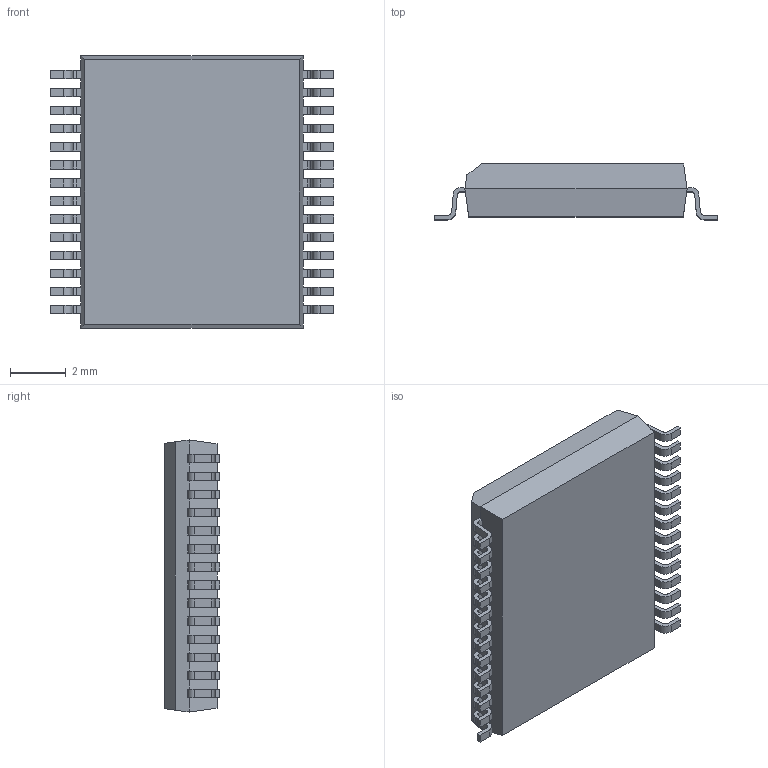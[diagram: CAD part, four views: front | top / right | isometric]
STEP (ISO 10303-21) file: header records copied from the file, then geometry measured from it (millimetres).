
FILE_DESCRIPTION (( 'STEP AP214' ), '1' );
FILE_NAME ('SOP65P1000X200-28_MO-152.GA.STEP', '2014-10-30T11:22:05', ( 'Tester2' ), ( '' ), 'SwSTEP 2.0', 'SolidWorks 2012', '' );
FILE_SCHEMA (( 'AUTOMOTIVE_DESIGN' ));
Length unit declared in the file: millimetre
Products named in the file (1): SOP65P1000X200-28_MO-152.GA
Bounding box: 10.2 x 2 x 9.8 mm (x, y, z)
Volume: 145.9 mm3; surface area: 260.1 mm2
Topology: 1 solids, 1 shells, 378 faces, 1121 edges, 746 vertices
Faces by surface type: plane 264, cylinder 114
Entity records: 16672 total; most frequent: CARTESIAN_POINT 2246, ORIENTED_EDGE 2242, DIRECTION 2107, EDGE_CURVE 1121, LINE 893, VECTOR 893, VERTEX_POINT 746, AXIS2_PLACEMENT_3D 607
